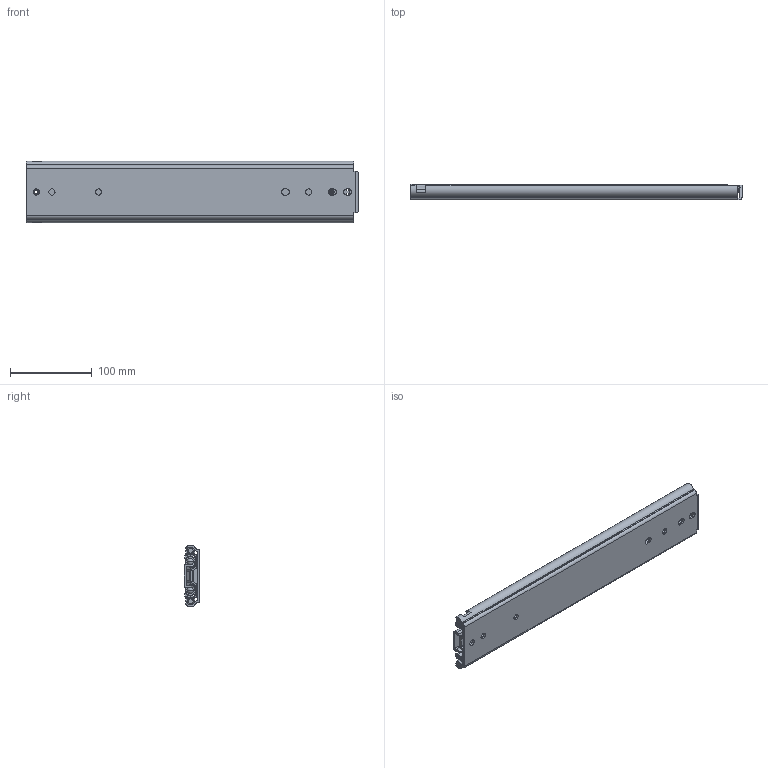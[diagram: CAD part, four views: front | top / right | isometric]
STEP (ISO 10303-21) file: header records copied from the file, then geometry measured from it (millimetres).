
FILE_DESCRIPTION((''),'2;1');
FILE_NAME('DG-76-02-16_ASM','2023-05-15T',('jishu015'),(''),'PRO/ENGINEER BY PARAMETRIC TECHNOLOGY CORPORATION, 2010280','PRO/ENGINEER BY PARAMETRIC TECHNOLOGY CORPORATION, 2010280','');
FILE_SCHEMA(('CONFIG_CONTROL_DESIGN'));
Length unit declared in the file: millimetre
Products named in the file (18): KP-76-04WAIKE3_______________; 1076-WAIKEZIDANJIAO31___; WAIK72________________ASM; 1076XIAOZHUTIAO1_______________; 163_______________; 1076XIAOZHUTIAO1________________ASM; KP-76-04ZHONGGUI31; 76CHANGGUIZHONGGUIJIAO31______; 3X6WODIN3_______________; PJ-76-33_______________; 76-XIAOZHUJIA3_______________; GANGZHU-XIAO3_______________; ZHUJIA-XIAO3________________ASM; ZHONGGUI3________________ASM; KP-76-04NEIGUI3_______________; XIN-TANPIAN_______________; NEIGUI3________________ASM; DG-76-02-16_ASM
Assembly tree (38 placements, depth 4):
  DG-76-02-16_ASM
    WAIK72________________ASM
      KP-76-04WAIKE3_______________
      1076-WAIKEZIDANJIAO31___  x2
    1076XIAOZHUTIAO1________________ASM  x2
      1076XIAOZHUTIAO1_______________
      163_______________
    ZHONGGUI3________________ASM
      KP-76-04ZHONGGUI31
      76CHANGGUIZHONGGUIJIAO31______
      3X6WODIN3_______________
      PJ-76-33_______________
      ZHUJIA-XIAO3________________ASM
        76-XIAOZHUJIA3_______________
        GANGZHU-XIAO3_______________  x14
    NEIGUI3________________ASM
      KP-76-04NEIGUI3_______________
      XIN-TANPIAN_______________
Bounding box: 406.4 x 19.5 x 75.3 mm (x, y, z)
Volume: 262689.2 mm3; surface area: 253769.1 mm2
Topology: 40 solids, 40 shells, 1046 faces, 3226 edges, 2065 vertices
Faces by surface type: plane 599, cylinder 350, sphere 58, extrusion 21, cone 18
Entity records: 32719 total; most frequent: CARTESIAN_POINT 6994, ORIENTED_EDGE 5556, DIRECTION 5139, EDGE_CURVE 2778, VERTEX_POINT 1825, VECTOR 1719, AXIS2_PLACEMENT_3D 1710, LINE 1698
